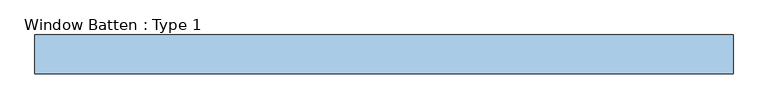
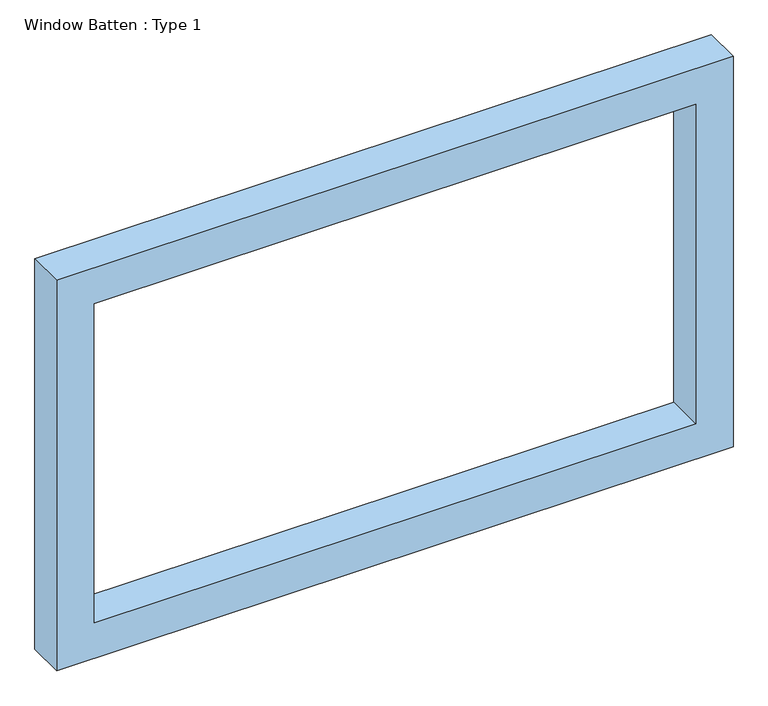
"""IFC4 building model written with IfcOpenShell, lengths in millimetres: window geometry, Window Batten : Type 1."""

from ifc_helpers import new_model, si_unit, frame, origin, place, context, project, spatial, polyline, outline, extrude, source, transform, mapped, element, save


def window_batten_type_1_75926c5e(model_context):
    return source(origin(), model_context, "Body", "SweptSolid", [
        extrude(outline(polyline([(2708.8484214, -1676.6389709), (511.4842049, -1676.6389709), (511.4842049, 1926.6389709), (2708.8484214, 1926.6389709), (2708.8484214, -1676.6389709)]), holes=[polyline([(2508.8484214, -1476.6389709), (2508.8484214, 1726.6389709), (711.4842049, 1726.6389709), (711.4842049, -1476.6389709), (2508.8484214, -1476.6389709)])]), frame((0.0, -310.0, 0.0), z_axis=(0.0, 1.0, 0.0), x_axis=(0.0, 0.0, 1.0)), (0.0, 0.0, 1.0), 200.0),
    ])


if __name__ == "__main__":
    model = new_model("IFC4")
    model_context = context("Model", 3, world=origin())
    ifc_project = project(units=[si_unit("LENGTHUNIT", "METRE", prefix="MILLI")], contexts=[model_context])
    site = spatial("IfcSite", under=ifc_project)
    building = spatial("IfcBuilding", under=site)
    placement = place(None, origin())
    window_batten_type_1_shape = window_batten_type_1_75926c5e(model_context)
    element("IfcWindow", 1, ObjectType="Window Batten : Type 1", at=placement, inside=building, context=model_context, shape_type="MappedRepresentation", body=[
        mapped(window_batten_type_1_shape, transform((0.0, 0.0, 0.0), x_axis=(1.0, 0.0, 0.0), y_axis=(0.0, 1.0, 0.0), z_axis=(0.0, 0.0, 1.0))),
    ])
    save(model, "model.ifc")
